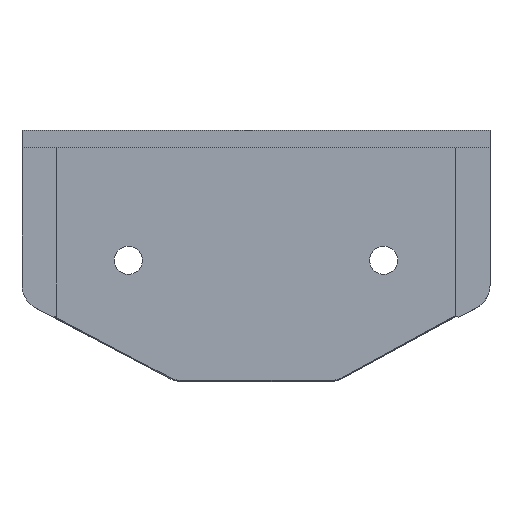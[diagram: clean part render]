
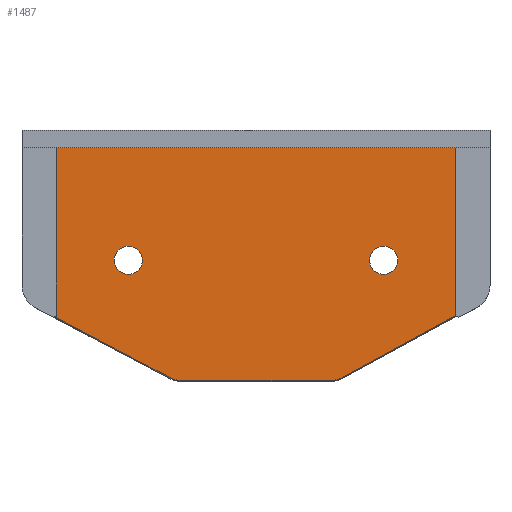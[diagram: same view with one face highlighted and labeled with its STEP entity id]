
A CAD part, left-side view. The second image highlights one B-rep face of the part: STEP entity #1487.
In plain terms, the highlighted planar face has unit normal (-1, 0, 0).
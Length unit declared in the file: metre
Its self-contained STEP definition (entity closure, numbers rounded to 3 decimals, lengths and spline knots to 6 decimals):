
#33=B_SPLINE_CURVE_WITH_KNOTS('',3,(#2523,#2524,#2525,#2526),
 .UNSPECIFIED.,.F.,.F.,(4,4),(0.,1.),.UNSPECIFIED.);
#34=B_SPLINE_CURVE_WITH_KNOTS('',3,(#2529,#2530,#2531,#2532),
 .UNSPECIFIED.,.F.,.F.,(4,4),(0.,1.),.UNSPECIFIED.);
#35=B_SPLINE_CURVE_WITH_KNOTS('',3,(#2534,#2535,#2536,#2537),
 .UNSPECIFIED.,.F.,.F.,(4,4),(0.,1.),.UNSPECIFIED.);
#36=B_SPLINE_CURVE_WITH_KNOTS('',3,(#2539,#2540,#2541,#2542),
 .UNSPECIFIED.,.F.,.F.,(4,4),(0.,1.),.UNSPECIFIED.);
#143=LINE('',#2514,#261);
#148=LINE('',#2544,#266);
#149=LINE('',#2546,#267);
#150=LINE('',#2547,#268);
#151=LINE('',#2549,#269);
#152=LINE('',#2553,#270);
#261=VECTOR('',#2028,1.);
#266=VECTOR('',#2037,1.);
#267=VECTOR('',#2038,1.);
#268=VECTOR('',#2039,1.);
#269=VECTOR('',#2040,1.);
#270=VECTOR('',#2043,1.);
#304=PLANE('',#1651);
#639=ORIENTED_EDGE('',*,*,#746,.F.);
#640=ORIENTED_EDGE('',*,*,#744,.F.);
#641=ORIENTED_EDGE('',*,*,#929,.T.);
#642=ORIENTED_EDGE('',*,*,#930,.T.);
#643=ORIENTED_EDGE('',*,*,#931,.T.);
#644=ORIENTED_EDGE('',*,*,#932,.T.);
#645=ORIENTED_EDGE('',*,*,#933,.F.);
#646=ORIENTED_EDGE('',*,*,#934,.F.);
#647=ORIENTED_EDGE('',*,*,#924,.T.);
#648=ORIENTED_EDGE('',*,*,#935,.T.);
#649=ORIENTED_EDGE('',*,*,#936,.T.);
#650=ORIENTED_EDGE('',*,*,#937,.T.);
#651=ORIENTED_EDGE('',*,*,#938,.T.);
#744=EDGE_CURVE('',#958,#958,#1104,.F.);
#746=EDGE_CURVE('',#960,#960,#1106,.F.);
#924=EDGE_CURVE('',#1089,#1088,#143,.T.);
#929=EDGE_CURVE('',#1091,#1092,#33,.T.);
#930=EDGE_CURVE('',#1092,#1093,#34,.T.);
#931=EDGE_CURVE('',#1093,#1094,#35,.T.);
#932=EDGE_CURVE('',#1094,#1095,#36,.T.);
#933=EDGE_CURVE('',#1096,#1095,#148,.T.);
#934=EDGE_CURVE('',#1089,#1096,#149,.T.);
#935=EDGE_CURVE('',#1088,#1097,#150,.F.);
#936=EDGE_CURVE('',#1097,#1098,#151,.T.);
#937=EDGE_CURVE('',#1098,#1099,#1174,.F.);
#938=EDGE_CURVE('',#1099,#1091,#152,.T.);
#958=VERTEX_POINT('',#2096);
#960=VERTEX_POINT('',#2101);
#1088=VERTEX_POINT('',#2513);
#1089=VERTEX_POINT('',#2515);
#1091=VERTEX_POINT('',#2527);
#1092=VERTEX_POINT('',#2528);
#1093=VERTEX_POINT('',#2533);
#1094=VERTEX_POINT('',#2538);
#1095=VERTEX_POINT('',#2543);
#1096=VERTEX_POINT('',#2545);
#1097=VERTEX_POINT('',#2548);
#1098=VERTEX_POINT('',#2550);
#1099=VERTEX_POINT('',#2552);
#1104=CIRCLE('',#1524,0.00165);
#1106=CIRCLE('',#1527,0.00165);
#1174=CIRCLE('',#1652,0.002876);
#1257=EDGE_LOOP('',(#639));
#1258=EDGE_LOOP('',(#640));
#1259=EDGE_LOOP('',(#641,#642,#643,#644,#645,#646,#647,#648,#649,#650,#651));
#1365=FACE_BOUND('',#1257,.T.);
#1366=FACE_BOUND('',#1258,.T.);
#1367=FACE_BOUND('',#1259,.T.);
#1487=ADVANCED_FACE('',(#1365,#1366,#1367),#304,.F.);
#1524=AXIS2_PLACEMENT_3D('',#2095,#1677,#1678);
#1527=AXIS2_PLACEMENT_3D('',#2100,#1683,#1684);
#1651=AXIS2_PLACEMENT_3D('',#2522,#2035,#2036);
#1652=AXIS2_PLACEMENT_3D('',#2551,#2041,#2042);
#1677=DIRECTION('',(1.,0.,0.));
#1678=DIRECTION('',(0.,0.,-1.));
#1683=DIRECTION('',(1.,0.,0.));
#1684=DIRECTION('',(0.,0.,-1.));
#2028=DIRECTION('',(0.,0.,-1.));
#2035=DIRECTION('',(1.,0.,0.));
#2036=DIRECTION('',(0.,0.,-1.));
#2037=DIRECTION('',(0.,0.,-1.));
#2038=DIRECTION('',(0.,-1.,0.));
#2039=DIRECTION('',(0.,-0.987,0.159));
#2040=DIRECTION('',(0.,-0.884,-0.467));
#2041=DIRECTION('',(1.,0.,0.));
#2042=DIRECTION('',(0.,0.,-1.));
#2043=DIRECTION('',(0.,-1.,0.));
#2095=CARTESIAN_POINT('',(0.002,-0.0425,-0.00525));
#2096=CARTESIAN_POINT('',(0.002,-0.0425,-0.0069));
#2100=CARTESIAN_POINT('',(0.002,-0.0125,-0.00525));
#2101=CARTESIAN_POINT('',(0.002,-0.0125,-0.0069));
#2513=CARTESIAN_POINT('',(0.002,-0.002845,-0.011227));
#2514=CARTESIAN_POINT('',(0.002,-0.002845,0.407901));
#2515=CARTESIAN_POINT('',(0.002,-0.002845,0.008));
#2522=CARTESIAN_POINT('',(0.002,-0.0275,0.407901));
#2523=CARTESIAN_POINT('',(0.002,-0.036236,-0.019376));
#2524=CARTESIAN_POINT('',(0.002,-0.036725,-0.019376));
#2525=CARTESIAN_POINT('',(0.002,-0.037184,-0.019259));
#2526=CARTESIAN_POINT('',(0.002,-0.037612,-0.019026));
#2527=CARTESIAN_POINT('',(0.002,-0.036236,-0.019376));
#2528=CARTESIAN_POINT('',(0.002,-0.037612,-0.019026));
#2529=CARTESIAN_POINT('',(0.002,-0.037612,-0.019026));
#2530=CARTESIAN_POINT('',(0.002,-0.04246,-0.016385));
#2531=CARTESIAN_POINT('',(0.002,-0.047307,-0.013744));
#2532=CARTESIAN_POINT('',(0.002,-0.052155,-0.011103));
#2533=CARTESIAN_POINT('',(0.002,-0.052155,-0.011103));
#2534=CARTESIAN_POINT('',(0.002,-0.052155,-0.011103));
#2535=CARTESIAN_POINT('',(0.002,-0.052203,-0.011077));
#2536=CARTESIAN_POINT('',(0.002,-0.052252,-0.01105));
#2537=CARTESIAN_POINT('',(0.002,-0.0523,-0.011024));
#2538=CARTESIAN_POINT('',(0.002,-0.0523,-0.011024));
#2539=CARTESIAN_POINT('',(0.002,-0.0523,-0.011024));
#2540=CARTESIAN_POINT('',(0.002,-0.052252,-0.010979));
#2541=CARTESIAN_POINT('',(0.002,-0.052203,-0.010934));
#2542=CARTESIAN_POINT('',(0.002,-0.052155,-0.010889));
#2543=CARTESIAN_POINT('',(0.002,-0.052155,-0.010889));
#2544=CARTESIAN_POINT('',(0.002,-0.052155,0.407901));
#2545=CARTESIAN_POINT('',(0.002,-0.052155,0.008));
#2546=CARTESIAN_POINT('',(0.002,-0.0275,0.008));
#2547=CARTESIAN_POINT('',(0.002,-0.092566,0.003198));
#2548=CARTESIAN_POINT('',(0.002,-0.002649,-0.011258));
#2549=CARTESIAN_POINT('',(0.002,0.150941,0.069803));
#2550=CARTESIAN_POINT('',(0.002,-0.017401,-0.019044));
#2551=CARTESIAN_POINT('',(0.002,-0.018743,-0.0165));
#2552=CARTESIAN_POINT('',(0.002,-0.018743,-0.019376));
#2553=CARTESIAN_POINT('',(0.002,-0.0275,-0.019376));
